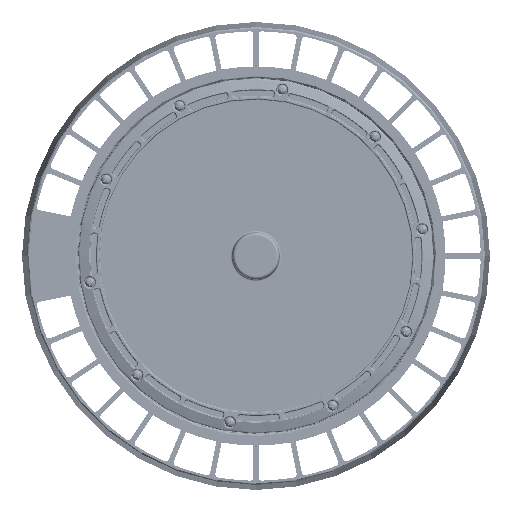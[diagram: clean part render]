
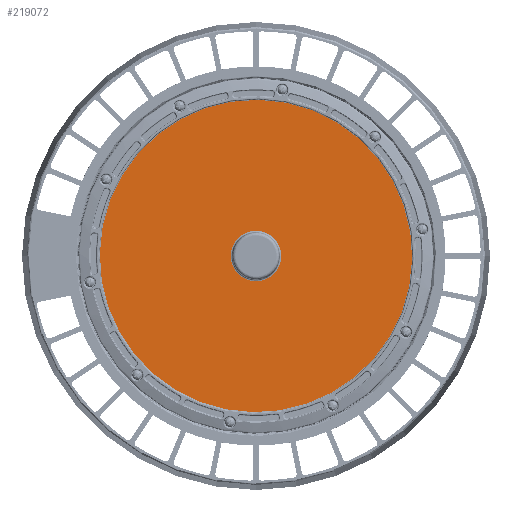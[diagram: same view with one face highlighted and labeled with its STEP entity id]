
A CAD part, front view. The second image highlights one B-rep face of the part: STEP entity #219072.
In plain terms, the highlighted planar face has unit normal (0, -1, 0) as drawn and (0, 0, 1) by its records, which use the part's own axes.
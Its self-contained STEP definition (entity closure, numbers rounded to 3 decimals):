
#168792=CARTESIAN_POINT('',(0.,0.,6.));
#168793=DIRECTION('',(0.,0.,-1.));
#168794=DIRECTION('',(-1.,0.,0.));
#168795=AXIS2_PLACEMENT_3D('',#168792,#168793,#168794);
#168797=CARTESIAN_POINT('',(0.,0.,6.));
#168798=DIRECTION('',(0.,0.,-1.));
#168799=DIRECTION('',(1.,0.,0.));
#168800=AXIS2_PLACEMENT_3D('',#168797,#168798,#168799);
#168802=CARTESIAN_POINT('',(0.,0.,6.));
#168803=DIRECTION('',(0.,0.,1.));
#168804=DIRECTION('',(-1.,0.,0.));
#168805=AXIS2_PLACEMENT_3D('',#168802,#168803,#168804);
#168807=CARTESIAN_POINT('',(0.,0.,6.));
#168808=DIRECTION('',(0.,0.,1.));
#168809=DIRECTION('',(1.,0.,0.));
#168810=AXIS2_PLACEMENT_3D('',#168807,#168808,#168809);
#171793=CARTESIAN_POINT('',(-99.313,0.,6.));
#171794=CARTESIAN_POINT('',(99.313,0.,6.));
#171795=VERTEX_POINT('',#171793);
#171796=VERTEX_POINT('',#171794);
#171797=CARTESIAN_POINT('',(-16.065,0.,6.));
#171798=CARTESIAN_POINT('',(16.065,0.,6.));
#171799=VERTEX_POINT('',#171797);
#171800=VERTEX_POINT('',#171798);
#219056=CARTESIAN_POINT('',(0.,0.,6.));
#219057=DIRECTION('',(0.,0.,1.));
#219058=DIRECTION('',(-1.,0.,0.));
#219059=AXIS2_PLACEMENT_3D('',#219056,#219057,#219058);
#219060=PLANE('',#219059);
#219061=ORIENTED_EDGE('',*,*,#219046,.T.);
#219063=ORIENTED_EDGE('',*,*,#219062,.T.);
#219064=EDGE_LOOP('',(#219061,#219063));
#219065=FACE_OUTER_BOUND('',#219064,.F.);
#219067=ORIENTED_EDGE('',*,*,#219066,.T.);
#219069=ORIENTED_EDGE('',*,*,#219068,.T.);
#219070=EDGE_LOOP('',(#219067,#219069));
#219071=FACE_BOUND('',#219070,.F.);
#219072=ADVANCED_FACE('',(#219065,#219071),#219060,.T.);
#168796=CIRCLE('',#168795,99.313);
#168801=CIRCLE('',#168800,99.313);
#168806=CIRCLE('',#168805,16.065);
#168811=CIRCLE('',#168810,16.065);
#219046=EDGE_CURVE('',#171795,#171796,#168796,.T.);
#219062=EDGE_CURVE('',#171796,#171795,#168801,.T.);
#219066=EDGE_CURVE('',#171799,#171800,#168806,.T.);
#219068=EDGE_CURVE('',#171800,#171799,#168811,.T.);
